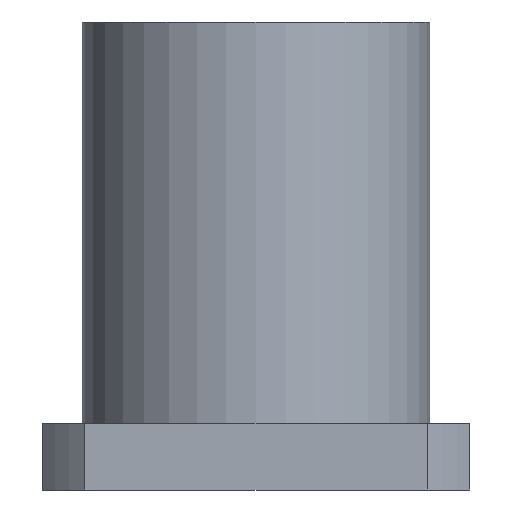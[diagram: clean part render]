
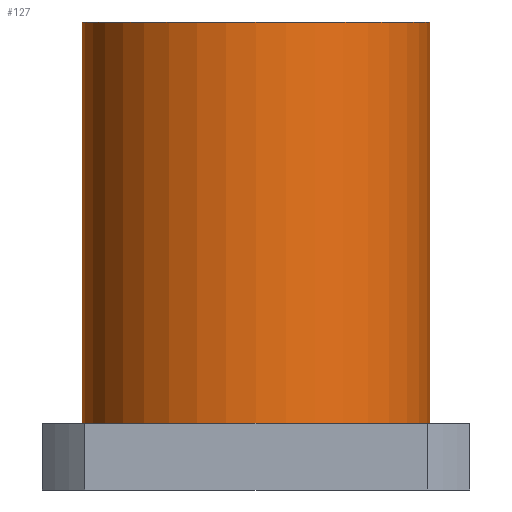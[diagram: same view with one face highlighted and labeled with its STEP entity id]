
A CAD part, front view. The second image highlights one B-rep face of the part: STEP entity #127.
In plain terms, the highlighted cylindrical face has radius 26 mm (diameter 52 mm), a partial arc.
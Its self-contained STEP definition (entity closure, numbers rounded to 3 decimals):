
#86=CARTESIAN_POINT('',(-14.031,3.294,0.0));
#87=DIRECTION('',(0.0,0.0,1.0));
#88=DIRECTION('',(-1.0,0.0,0.0));
#89=AXIS2_PLACEMENT_3D('',#86,#87,#88);
#90=CYLINDRICAL_SURFACE('',#89,26.0);
#91=CARTESIAN_POINT('',(-40.031,3.294,10.0));
#92=VERTEX_POINT('',#91);
#93=CARTESIAN_POINT('',(-40.031,3.294,70.0));
#94=VERTEX_POINT('',#93);
#95=CARTESIAN_POINT('',(-40.031,3.294,10.0));
#96=DIRECTION('',(0.0,0.0,1.0));
#97=VECTOR('',#96,60.0);
#98=LINE('',#95,#97);
#99=EDGE_CURVE('',#92,#94,#98,.T.);
#100=ORIENTED_EDGE('',*,*,#99,.F.);
#101=CARTESIAN_POINT('',(11.969,3.294,10.0));
#102=VERTEX_POINT('',#101);
#103=CARTESIAN_POINT('',(-14.031,3.294,10.0));
#104=DIRECTION('',(0.0,0.0,-1.0));
#105=DIRECTION('',(-1.0,0.0,0.0));
#106=AXIS2_PLACEMENT_3D('',#103,#104,#105);
#107=CIRCLE('',#106,26.0);
#108=EDGE_CURVE('',#102,#92,#107,.T.);
#109=ORIENTED_EDGE('',*,*,#108,.F.);
#110=CARTESIAN_POINT('',(11.969,3.294,70.0));
#111=VERTEX_POINT('',#110);
#112=CARTESIAN_POINT('',(11.969,3.294,70.0));
#113=DIRECTION('',(0.0,0.0,-1.0));
#114=VECTOR('',#113,60.0);
#115=LINE('',#112,#114);
#116=EDGE_CURVE('',#111,#102,#115,.T.);
#117=ORIENTED_EDGE('',*,*,#116,.F.);
#118=CARTESIAN_POINT('',(-14.031,3.294,70.0));
#119=DIRECTION('',(0.0,0.0,-1.0));
#120=DIRECTION('',(-1.0,0.0,0.0));
#121=AXIS2_PLACEMENT_3D('',#118,#119,#120);
#122=CIRCLE('',#121,26.0);
#123=EDGE_CURVE('',#111,#94,#122,.T.);
#124=ORIENTED_EDGE('',*,*,#123,.T.);
#125=EDGE_LOOP('',(#100,#109,#117,#124));
#126=FACE_OUTER_BOUND('',#125,.T.);
#127=ADVANCED_FACE('',(#126),#90,.T.);
